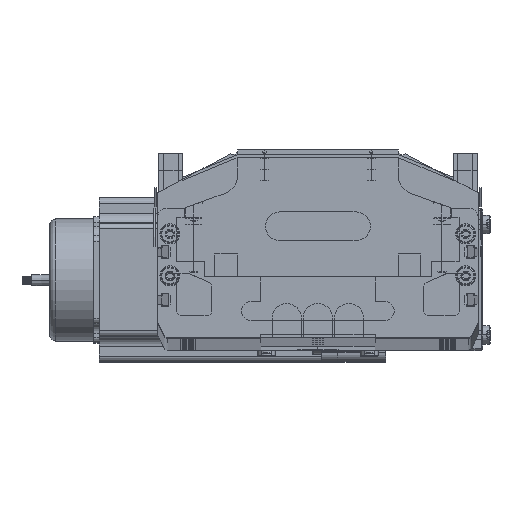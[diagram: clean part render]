
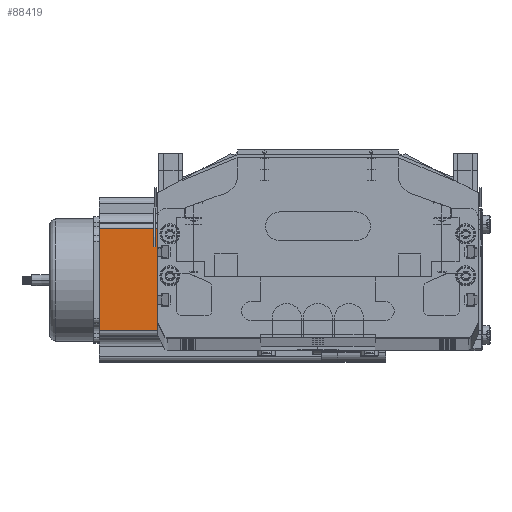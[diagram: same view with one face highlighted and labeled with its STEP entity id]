
A CAD part, top view. The second image highlights one B-rep face of the part: STEP entity #88419.
In plain terms, the highlighted planar face has unit normal (0, 0, 1) as drawn and (0, -1, 0) by its records, which use the part's own axes.
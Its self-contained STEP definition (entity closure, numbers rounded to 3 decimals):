
#66818 = AXIS2_PLACEMENT_3D ( 'NONE', #66867, #66856, #66855 ) ;
#66855 = DIRECTION ( 'NONE',  ( 0., 0., 1. ) ) ;
#66856 = DIRECTION ( 'NONE',  ( 0., 1., 0. ) ) ;
#66866 = LINE ( 'NONE', #67035, #67040 ) ;
#66867 = CARTESIAN_POINT ( 'NONE',  ( 0., 0., 116.5 ) ) ;
#66895 = CARTESIAN_POINT ( 'NONE',  ( 69.74, 0., 0. ) ) ;
#66938 = CARTESIAN_POINT ( 'NONE',  ( 16.16, 0., 0. ) ) ;
#66951 = VECTOR ( 'NONE', #67019, 1000. ) ;
#66952 = CARTESIAN_POINT ( 'NONE',  ( 69.74, 0., 116.5 ) ) ;
#66953 = LINE ( 'NONE', #66952, #67034 ) ;
#66965 = LINE ( 'NONE', #66993, #66951 ) ;
#66993 = CARTESIAN_POINT ( 'NONE',  ( 0., 0., 0. ) ) ;
#67019 = DIRECTION ( 'NONE',  ( 1., 0., 0. ) ) ;
#67026 = PLANE ( 'NONE',  #66818 ) ;
#67028 = CARTESIAN_POINT ( 'NONE',  ( 69.74, 0., 116.5 ) ) ;
#67030 = DIRECTION ( 'NONE',  ( 1., 0., 0. ) ) ;
#67031 = FACE_OUTER_BOUND ( 'NONE', #88463, .T. ) ;
#67034 = VECTOR ( 'NONE', #67036, 1000. ) ;
#67035 = CARTESIAN_POINT ( 'NONE',  ( 0., 0., 116.5 ) ) ;
#67036 = DIRECTION ( 'NONE',  ( 0., 0., 1. ) ) ;
#67040 = VECTOR ( 'NONE', #67030, 1000. ) ;
#67129 = CARTESIAN_POINT ( 'NONE',  ( 16.16, 0., 116.5 ) ) ;
#67131 = LINE ( 'NONE', #67129, #67192 ) ;
#67189 = DIRECTION ( 'NONE',  ( 0., 0., -1. ) ) ;
#67191 = CARTESIAN_POINT ( 'NONE',  ( 16.16, 0., 116.5 ) ) ;
#67192 = VECTOR ( 'NONE', #67189, 1000. ) ;
#88385 = VERTEX_POINT ( 'NONE', #66938 ) ;
#88390 = VERTEX_POINT ( 'NONE', #66895 ) ;
#88412 = VERTEX_POINT ( 'NONE', #67028 ) ;
#88419 = ADVANCED_FACE ( 'NONE', ( #67031 ), #67026, .F. ) ;
#88420 = ORIENTED_EDGE ( 'NONE', *, *, #88421, .T. ) ;
#88421 = EDGE_CURVE ( 'NONE', #88390, #88412, #66953, .T. ) ;
#88422 = EDGE_CURVE ( 'NONE', #88385, #88390, #66965, .T. ) ;
#88428 = VERTEX_POINT ( 'NONE', #67191 ) ;
#88431 = EDGE_CURVE ( 'NONE', #88428, #88412, #66866, .T. ) ;
#88433 = ORIENTED_EDGE ( 'NONE', *, *, #88431, .F. ) ;
#88435 = EDGE_CURVE ( 'NONE', #88428, #88385, #67131, .T. ) ;
#88439 = ORIENTED_EDGE ( 'NONE', *, *, #88435, .T. ) ;
#88463 = EDGE_LOOP ( 'NONE', ( #88470, #88420, #88433, #88439 ) ) ;
#88470 = ORIENTED_EDGE ( 'NONE', *, *, #88422, .T. ) ;
